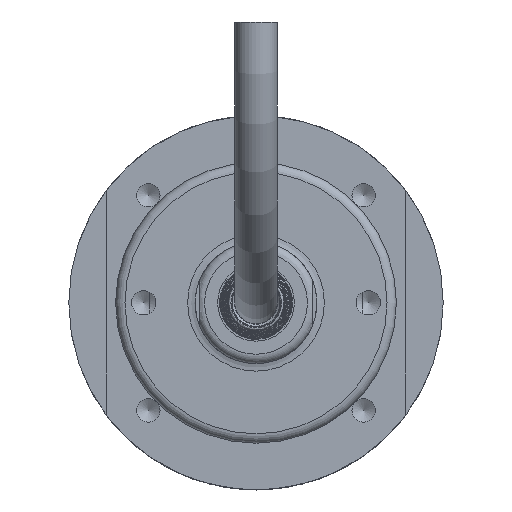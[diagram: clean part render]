
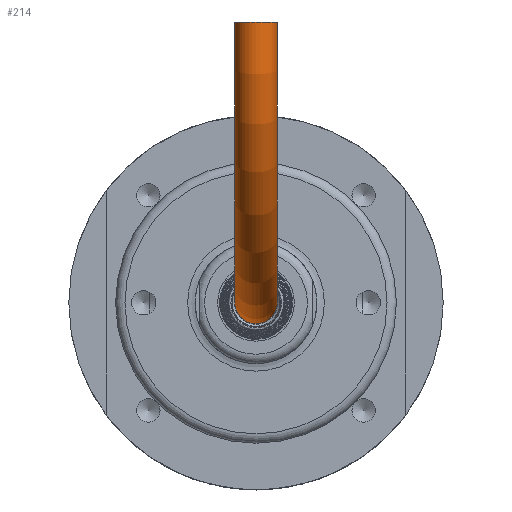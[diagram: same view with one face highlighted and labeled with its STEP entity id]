
A CAD part, front view. The second image highlights one B-rep face of the part: STEP entity #214.
In plain terms, the highlighted toroidal (fillet/blend) face has major radius 30 mm and minor radius 2.25 mm.
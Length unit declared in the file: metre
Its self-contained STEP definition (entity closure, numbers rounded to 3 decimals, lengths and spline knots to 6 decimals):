
#214 = ADVANCED_FACE( '', ( #442, #443 ), #444, .T. );
#442 = FACE_OUTER_BOUND( '', #799, .T. );
#443 = FACE_OUTER_BOUND( '', #800, .T. );
#444 = TOROIDAL_SURFACE( '', #801, 0.03, 0.00225 );
#799 = EDGE_LOOP( '', ( #11582 ) );
#800 = EDGE_LOOP( '', ( #11583 ) );
#801 = AXIS2_PLACEMENT_3D( '', #11584, #11585, #11586 );
#11582 = ORIENTED_EDGE( '', *, *, #12048, .T. );
#11583 = ORIENTED_EDGE( '', *, *, #12049, .F. );
#11584 = CARTESIAN_POINT( '', ( 0., -0.043, 0.03 ) );
#11585 = DIRECTION( '', ( -1., 0., 0. ) );
#11586 = DIRECTION( '', ( 0., 1., 0. ) );
#12048 = EDGE_CURVE( '', #12351, #12351, #12352, .T. );
#12049 = EDGE_CURVE( '', #12353, #12353, #12354, .T. );
#12351 = VERTEX_POINT( '', #12978 );
#12352 = CIRCLE( '', #12979, 0.00225 );
#12353 = VERTEX_POINT( '', #12980 );
#12354 = CIRCLE( '', #12981, 0.00225 );
#12978 = CARTESIAN_POINT( '', ( 0.00225, -0.043, 0. ) );
#12979 = AXIS2_PLACEMENT_3D( '', #17439, #17440, #17441 );
#12980 = CARTESIAN_POINT( '', ( 0., -0.07075, 0.03 ) );
#12981 = AXIS2_PLACEMENT_3D( '', #17442, #17443, #17444 );
#17439 = CARTESIAN_POINT( '', ( 0., -0.043, 0. ) );
#17440 = DIRECTION( '', ( 0., -1., 0. ) );
#17441 = DIRECTION( '', ( 1., 0., 0. ) );
#17442 = CARTESIAN_POINT( '', ( 0., -0.073, 0.03 ) );
#17443 = DIRECTION( '', ( 0., 0., 1. ) );
#17444 = DIRECTION( '', ( 0., 1., 0. ) );
